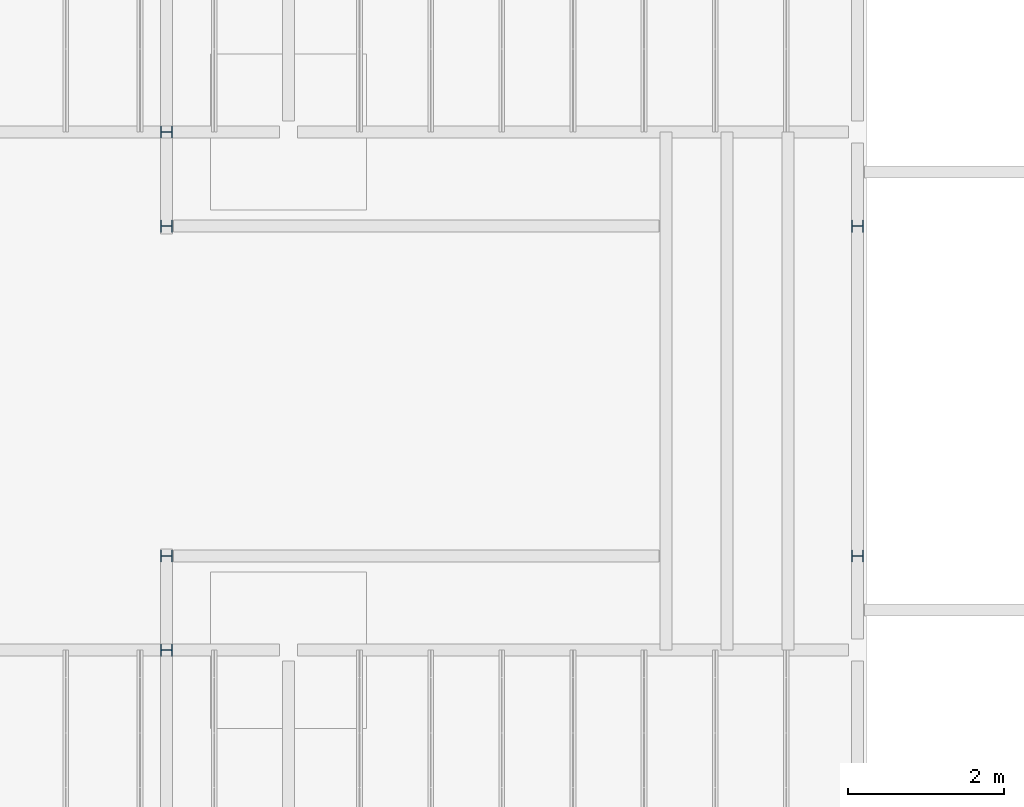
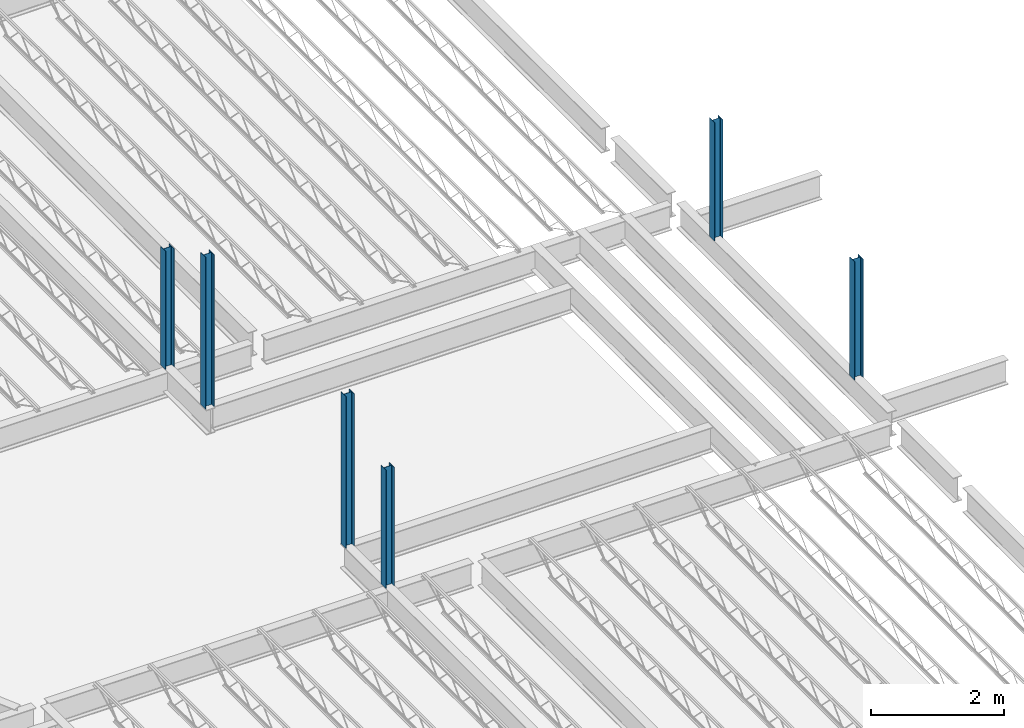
# One storey, part 2 of 75: 6 columns.
"""IFC2X3 building model written with IfcOpenShell, lengths in metres."""

from ifc_helpers import new_model, entity, si_unit, converted_unit, frame, frame_2d, origin, place, context, project, spatial, polyline, circle_curve, parameter, trimmed, segment, composite_curve, outline, extrude, source, transform, mapped, material, type_object, type_shapes, element, save


model = new_model("IFC2X3")

# Units and contexts
model_context = context("Model", 3, precision=1e-09, world=origin())
plan_context = context("Plan", 3, precision=1e-09, world=origin())
ifc_project = project(units=[si_unit("LENGTHUNIT", "METRE"), si_unit("AREAUNIT", "SQUARE_METRE"), si_unit("VOLUMEUNIT", "CUBIC_METRE"), converted_unit("PLANEANGLEUNIT", "DEGREE", entity("IfcRatioMeasure", 0.01745329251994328), si_unit("PLANEANGLEUNIT", "RADIAN"), dimensions=[0, 0, 0, 0, 0, 0, 0]), si_unit("TIMEUNIT", "SECOND")], contexts=[model_context, plan_context])

# Site, building, storey
site_placement = place(None, origin())
site = spatial("IfcSite", under=ifc_project, at=site_placement, Name="Default", CompositionType="ELEMENT")
building_placement = place(site_placement, origin())
building = spatial("IfcBuilding", under=site, at=building_placement, CompositionType="ELEMENT")
storey_placement = place(building_placement, origin())
storey = spatial("IfcBuildingStorey", under=building, at=storey_placement, Name="First Floor", CompositionType="ELEMENT", Elevation=-3.531500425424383e-13)

# Columns
ifc_material = material(Name="Metal - Steel - 345 MPa")
column_type_1 = type_object("IfcColumnType", Name="W150X22.5", PredefinedType="COLUMN")
shared_shape_1 = source(origin(), model_context, "Body", "SweptSolid", [
    extrude(outline(composite_curve([segment(polyline([(-0.07599999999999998, -0.07599999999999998), (0.07599999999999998, -0.07599999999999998)]), True, "CONTINUOUS"), segment(polyline([(0.07599999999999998, -0.07599999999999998), (0.07599999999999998, -0.06939999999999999)]), True, "CONTINUOUS"), segment(polyline([(0.07599999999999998, -0.06939999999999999), (0.0143, -0.0694)]), True, "CONTINUOUS"), segment(trimmed(circle_curve(frame_2d((0.0143, -0.05799999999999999), x_axis=(-1.0, 0.0)), 0.0114), [parameter(4.071109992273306e-13)], [parameter(90.00000000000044)], True, "PARAMETER"), False, "CONTINUOUS"), segment(polyline([(0.002899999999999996, -0.05799999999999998), (0.002899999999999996, 0.05800000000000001)]), True, "CONTINUOUS"), segment(trimmed(circle_curve(frame_2d((0.0143, 0.058), x_axis=(-1.0, 0.0)), 0.0114), [parameter(270.0000000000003)], [parameter(4.071109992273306e-13)], True, "PARAMETER"), False, "CONTINUOUS"), segment(polyline([(0.01429999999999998, 0.06939999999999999), (0.07599999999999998, 0.06939999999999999)]), True, "CONTINUOUS"), segment(polyline([(0.07599999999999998, 0.06939999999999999), (0.07599999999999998, 0.07599999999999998)]), True, "CONTINUOUS"), segment(polyline([(0.07599999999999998, 0.07599999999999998), (-0.07599999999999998, 0.07599999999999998)]), True, "CONTINUOUS"), segment(polyline([(-0.07599999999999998, 0.07599999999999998), (-0.07599999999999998, 0.06939999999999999)]), True, "CONTINUOUS"), segment(polyline([(-0.07599999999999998, 0.06939999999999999), (-0.01429999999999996, 0.0694)]), True, "CONTINUOUS"), segment(trimmed(circle_curve(frame_2d((-0.0143, 0.058), x_axis=(-1.0, 0.0)), 0.0114), [parameter(180.0)], [parameter(270.0)], True, "PARAMETER"), False, "CONTINUOUS"), segment(polyline([(-0.002899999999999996, 0.05800000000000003), (-0.002899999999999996, -0.05799999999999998)]), True, "CONTINUOUS"), segment(trimmed(circle_curve(frame_2d((-0.0143, -0.05799999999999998), x_axis=(-1.0, 0.0)), 0.0114), [parameter(90.0000000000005)], [parameter(180.0000000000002)], True, "PARAMETER"), False, "CONTINUOUS"), segment(polyline([(-0.01430000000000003, -0.06939999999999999), (-0.07599999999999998, -0.06939999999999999)]), True, "CONTINUOUS"), segment(polyline([(-0.07599999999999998, -0.06939999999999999), (-0.07599999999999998, -0.07599999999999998)]), True, "CONTINUOUS")], self_intersect=False)), frame((0.0, 0.0, 4.468000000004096), z_axis=(0.0, 0.0, 1.0), x_axis=(-1.0, 0.0, 0.0)), (0.0, 0.0, 1.0), 2.1735),
])
type_shapes(column_type_1, [shared_shape_1])
for number, where, z_axis, x_axis in (
    (1, (-8.840191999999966, 28.37999999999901, 0.0), (0.0, 0.0, 1.0), (0.0, 1.0, 0.0)),
    (2, (-9.399999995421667e-05, 33.80499939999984, 0.0), (0.0, 0.0, 1.0), (0.0, 1.0, 0.0)),
    (3, (-8.840191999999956, 35.00999999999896, 0.0), (0.0, 0.0, 1.0), (0.0, 1.0, 0.0)),
):
    element("IfcColumn", number, at=place(storey_placement, frame(where, z_axis=z_axis, x_axis=x_axis)), inside=storey, type_object=column_type_1, material=ifc_material, Name="M_W-Wide Flange-Column:W150X22.5:W150X22.5", ObjectType="W150X22.5", context=model_context, shape_type="MappedRepresentation", body=[
        mapped(shared_shape_1, transform((0.0, 0.0, 0.0), scale=1.0)),
    ])
column_type_2 = type_object("IfcColumnType", Name="W150X22.5", PredefinedType="COLUMN")
shared_shape_2 = source(origin(), model_context, "Body", "SweptSolid", [
    extrude(outline(composite_curve([segment(polyline([(-0.07599999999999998, -0.07599999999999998), (0.07599999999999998, -0.07599999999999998)]), True, "CONTINUOUS"), segment(polyline([(0.07599999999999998, -0.07599999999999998), (0.07599999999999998, -0.06939999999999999)]), True, "CONTINUOUS"), segment(polyline([(0.07599999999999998, -0.06939999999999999), (0.0143, -0.0694)]), True, "CONTINUOUS"), segment(trimmed(circle_curve(frame_2d((0.0143, -0.05799999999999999), x_axis=(-1.0, 0.0)), 0.0114), [parameter(4.071109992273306e-13)], [parameter(90.00000000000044)], True, "PARAMETER"), False, "CONTINUOUS"), segment(polyline([(0.002899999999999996, -0.05799999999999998), (0.002899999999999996, 0.05800000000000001)]), True, "CONTINUOUS"), segment(trimmed(circle_curve(frame_2d((0.0143, 0.058), x_axis=(-1.0, 0.0)), 0.0114), [parameter(270.0000000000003)], [parameter(4.071109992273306e-13)], True, "PARAMETER"), False, "CONTINUOUS"), segment(polyline([(0.01429999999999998, 0.06939999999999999), (0.07599999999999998, 0.06939999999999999)]), True, "CONTINUOUS"), segment(polyline([(0.07599999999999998, 0.06939999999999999), (0.07599999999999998, 0.07599999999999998)]), True, "CONTINUOUS"), segment(polyline([(0.07599999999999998, 0.07599999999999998), (-0.07599999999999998, 0.07599999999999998)]), True, "CONTINUOUS"), segment(polyline([(-0.07599999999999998, 0.07599999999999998), (-0.07599999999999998, 0.06939999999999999)]), True, "CONTINUOUS"), segment(polyline([(-0.07599999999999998, 0.06939999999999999), (-0.01429999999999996, 0.0694)]), True, "CONTINUOUS"), segment(trimmed(circle_curve(frame_2d((-0.0143, 0.058), x_axis=(-1.0, 0.0)), 0.0114), [parameter(180.0)], [parameter(270.0)], True, "PARAMETER"), False, "CONTINUOUS"), segment(polyline([(-0.002899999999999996, 0.05800000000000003), (-0.002899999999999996, -0.05799999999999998)]), True, "CONTINUOUS"), segment(trimmed(circle_curve(frame_2d((-0.0143, -0.05799999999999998), x_axis=(-1.0, 0.0)), 0.0114), [parameter(90.0000000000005)], [parameter(180.0000000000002)], True, "PARAMETER"), False, "CONTINUOUS"), segment(polyline([(-0.01430000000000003, -0.06939999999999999), (-0.07599999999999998, -0.06939999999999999)]), True, "CONTINUOUS"), segment(polyline([(-0.07599999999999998, -0.06939999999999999), (-0.07599999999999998, -0.07599999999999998)]), True, "CONTINUOUS")], self_intersect=False)), frame((0.0, 0.0, 4.468000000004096), z_axis=(0.0, 0.0, 1.0), x_axis=(-1.0, 0.0, 0.0)), (0.0, 0.0, 1.0), 2.792799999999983),
])
type_shapes(column_type_2, [shared_shape_2])
column_1_placement = place(storey_placement, frame((-8.84019199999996, 33.80499939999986, 0.0), z_axis=(0.0, 0.0, 1.0), x_axis=(0.0, 1.0, 0.0)))
element("IfcColumn", 4, at=column_1_placement, inside=storey, type_object=column_type_2, material=ifc_material, Name="M_W-Wide Flange-Column:W150X22.5:W150X22.5", ObjectType="W150X22.5", context=model_context, shape_type="MappedRepresentation", body=[
    mapped(shared_shape_2, transform((0.0, 0.0, 0.0), scale=1.0)),
])
column_type_3 = type_object("IfcColumnType", Name="W150X22.5", PredefinedType="COLUMN")
shared_shape_3 = source(origin(), model_context, "Body", "SweptSolid", [
    extrude(outline(composite_curve([segment(polyline([(-0.07599999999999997, -0.07599999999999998), (-0.06939999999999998, -0.07599999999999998)]), True, "CONTINUOUS"), segment(polyline([(-0.06939999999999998, -0.07599999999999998), (-0.06939999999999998, -0.01430000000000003)]), True, "CONTINUOUS"), segment(trimmed(circle_curve(frame_2d((-0.05799999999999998, -0.01430000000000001), x_axis=(0.0, -1.0)), 0.0114), [parameter(179.9999999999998)], [parameter(269.9999999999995)], True, "PARAMETER"), False, "CONTINUOUS"), segment(polyline([(-0.05799999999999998, -0.002899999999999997), (0.05800000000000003, -0.002899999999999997)]), True, "CONTINUOUS"), segment(trimmed(circle_curve(frame_2d((0.058, -0.01430000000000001), x_axis=(0.0, -1.0)), 0.0114), [parameter(89.99999999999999)], [parameter(180.0)], True, "PARAMETER"), False, "CONTINUOUS"), segment(polyline([(0.06940000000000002, -0.01429999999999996), (0.0694, -0.07599999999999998)]), True, "CONTINUOUS"), segment(polyline([(0.0694, -0.07599999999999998), (0.076, -0.07599999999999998)]), True, "CONTINUOUS"), segment(polyline([(0.076, -0.07599999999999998), (0.076, 0.07599999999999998)]), True, "CONTINUOUS"), segment(polyline([(0.076, 0.07599999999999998), (0.0694, 0.07599999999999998)]), True, "CONTINUOUS"), segment(polyline([(0.0694, 0.07599999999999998), (0.0694, 0.01429999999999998)]), True, "CONTINUOUS"), segment(trimmed(circle_curve(frame_2d((0.058, 0.0143), x_axis=(0.0, -1.0)), 0.0114), [parameter(359.9999999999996)], [parameter(89.99999999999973)], True, "PARAMETER"), False, "CONTINUOUS"), segment(polyline([(0.058, 0.002899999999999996), (-0.05799999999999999, 0.002899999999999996)]), True, "CONTINUOUS"), segment(trimmed(circle_curve(frame_2d((-0.05799999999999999, 0.0143), x_axis=(0.0, -1.0)), 0.0114), [parameter(269.9999999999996)], [parameter(359.9999999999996)], True, "PARAMETER"), False, "CONTINUOUS"), segment(polyline([(-0.06939999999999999, 0.0143), (-0.06939999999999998, 0.07599999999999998)]), True, "CONTINUOUS"), segment(polyline([(-0.06939999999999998, 0.07599999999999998), (-0.07599999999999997, 0.07599999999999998)]), True, "CONTINUOUS"), segment(polyline([(-0.07599999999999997, 0.07599999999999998), (-0.07599999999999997, -0.07599999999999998)]), True, "CONTINUOUS")], self_intersect=False)), frame((0.0, 0.0, 4.468000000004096), z_axis=(0.0, 0.0, 1.0), x_axis=(0.0, 1.0, 0.0)), (0.0, 0.0, 1.0), 2.1735),
])
type_shapes(column_type_3, [shared_shape_3])
column_2_placement = place(storey_placement, frame((-9.399999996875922e-05, 29.58500060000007, 0.0), z_axis=(0.0, 0.0, 1.0), x_axis=(0.0, -1.0, 0.0)))
element("IfcColumn", 5, at=column_2_placement, inside=storey, type_object=column_type_3, material=ifc_material, Name="M_W-Wide Flange-Column:W150X22.5:W150X22.5", ObjectType="W150X22.5", context=model_context, shape_type="MappedRepresentation", body=[
    mapped(shared_shape_3, transform((0.0, 0.0, 0.0), scale=1.0)),
])
column_type_4 = type_object("IfcColumnType", Name="W150X22.5", PredefinedType="COLUMN")
shared_shape_4 = source(origin(), model_context, "Body", "SweptSolid", [
    extrude(outline(composite_curve([segment(polyline([(-0.07599999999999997, -0.07599999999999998), (-0.06939999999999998, -0.07599999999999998)]), True, "CONTINUOUS"), segment(polyline([(-0.06939999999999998, -0.07599999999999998), (-0.06939999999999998, -0.01430000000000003)]), True, "CONTINUOUS"), segment(trimmed(circle_curve(frame_2d((-0.05799999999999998, -0.01430000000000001), x_axis=(0.0, -1.0)), 0.0114), [parameter(179.9999999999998)], [parameter(269.9999999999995)], True, "PARAMETER"), False, "CONTINUOUS"), segment(polyline([(-0.05799999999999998, -0.002899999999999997), (0.05800000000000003, -0.002899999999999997)]), True, "CONTINUOUS"), segment(trimmed(circle_curve(frame_2d((0.058, -0.01430000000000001), x_axis=(0.0, -1.0)), 0.0114), [parameter(89.99999999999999)], [parameter(180.0)], True, "PARAMETER"), False, "CONTINUOUS"), segment(polyline([(0.06940000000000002, -0.01429999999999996), (0.0694, -0.07599999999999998)]), True, "CONTINUOUS"), segment(polyline([(0.0694, -0.07599999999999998), (0.076, -0.07599999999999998)]), True, "CONTINUOUS"), segment(polyline([(0.076, -0.07599999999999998), (0.076, 0.07599999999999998)]), True, "CONTINUOUS"), segment(polyline([(0.076, 0.07599999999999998), (0.0694, 0.07599999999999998)]), True, "CONTINUOUS"), segment(polyline([(0.0694, 0.07599999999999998), (0.0694, 0.01429999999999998)]), True, "CONTINUOUS"), segment(trimmed(circle_curve(frame_2d((0.058, 0.0143), x_axis=(0.0, -1.0)), 0.0114), [parameter(359.9999999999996)], [parameter(89.99999999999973)], True, "PARAMETER"), False, "CONTINUOUS"), segment(polyline([(0.058, 0.002899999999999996), (-0.05799999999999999, 0.002899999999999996)]), True, "CONTINUOUS"), segment(trimmed(circle_curve(frame_2d((-0.05799999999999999, 0.0143), x_axis=(0.0, -1.0)), 0.0114), [parameter(269.9999999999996)], [parameter(359.9999999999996)], True, "PARAMETER"), False, "CONTINUOUS"), segment(polyline([(-0.06939999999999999, 0.0143), (-0.06939999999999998, 0.07599999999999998)]), True, "CONTINUOUS"), segment(polyline([(-0.06939999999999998, 0.07599999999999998), (-0.07599999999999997, 0.07599999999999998)]), True, "CONTINUOUS"), segment(polyline([(-0.07599999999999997, 0.07599999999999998), (-0.07599999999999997, -0.07599999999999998)]), True, "CONTINUOUS")], self_intersect=False)), frame((0.0, 0.0, 4.468000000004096), z_axis=(0.0, 0.0, 1.0), x_axis=(0.0, 1.0, 0.0)), (0.0, 0.0, 1.0), 2.792799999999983),
])
type_shapes(column_type_4, [shared_shape_4])
column_3_placement = place(storey_placement, frame((-8.840191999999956, 29.58500060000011, 0.0), z_axis=(0.0, 0.0, 1.0), x_axis=(0.0, -1.0, 0.0)))
element("IfcColumn", 6, at=column_3_placement, inside=storey, type_object=column_type_4, material=ifc_material, Name="M_W-Wide Flange-Column:W150X22.5:W150X22.5", ObjectType="W150X22.5", context=model_context, shape_type="MappedRepresentation", body=[
    mapped(shared_shape_4, transform((0.0, 0.0, 0.0), scale=1.0)),
])

save(model, "model.ifc")
